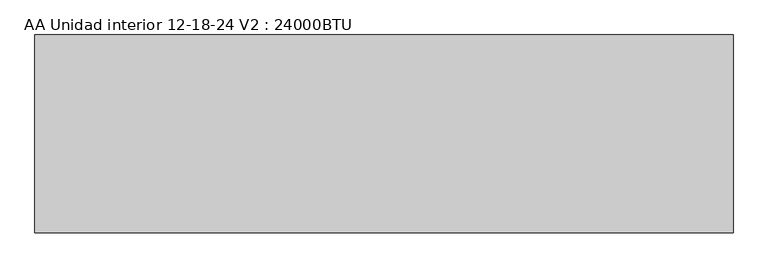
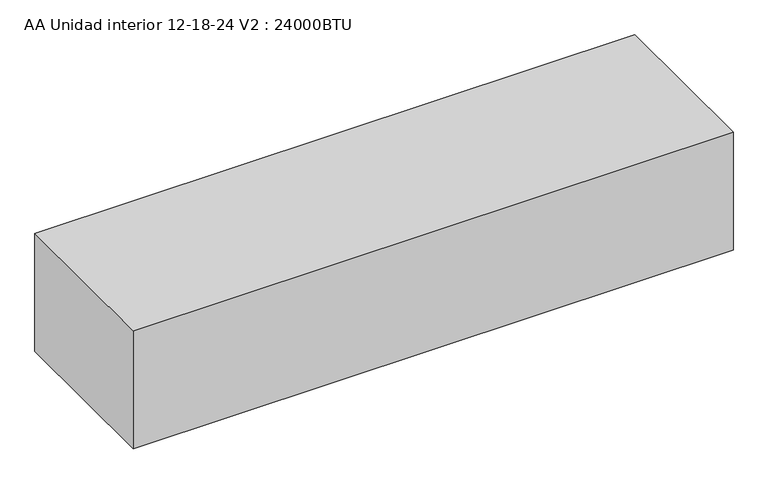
"""IFC4 building model written with IfcOpenShell, lengths in millimetres: proxy geometry, AA Unidad interior 12-18-24 V2 : 24000BTU."""

from ifc_helpers import new_model, si_unit, origin, origin_with_axes, place, context, project, spatial, polyline, outline, extrude, source, transform, mapped, element, save


def aa_unidad_interior_12_18_24_v2_24000btu_6bd6a99b(model_context):
    return source(origin(), model_context, "Body", "SweptSolid", [
        extrude(outline(polyline([(565.0, 160.0), (565.0, -160.0), (-565.0, -160.0), (-565.0, 160.0), (565.0, 160.0)])), origin_with_axes(), (0.0, 0.0, 1.0), 235.0),
    ])


if __name__ == "__main__":
    model = new_model("IFC4")
    model_context = context("Model", 3, world=origin())
    ifc_project = project(units=[si_unit("LENGTHUNIT", "METRE", prefix="MILLI")], contexts=[model_context])
    site = spatial("IfcSite", under=ifc_project)
    building = spatial("IfcBuilding", under=site)
    placement = place(None, origin())
    aa_unidad_interior_12_18_24_v2_24000btu_shape = aa_unidad_interior_12_18_24_v2_24000btu_6bd6a99b(model_context)
    element("IfcBuildingElementProxy", 1, Name="AA Unidad interior 12-18-24 V2 : 24000BTU", ObjectType="AA Unidad interior 12-18-24 V2 : 24000BTU", at=placement, inside=building, context=model_context, shape_type="MappedRepresentation", body=[
        mapped(aa_unidad_interior_12_18_24_v2_24000btu_shape, transform((0.0, 0.0, 0.0), x_axis=(1.0, 0.0, 0.0), y_axis=(0.0, 1.0, 0.0), z_axis=(0.0, 0.0, 1.0))),
    ])
    save(model, "model.ifc")
